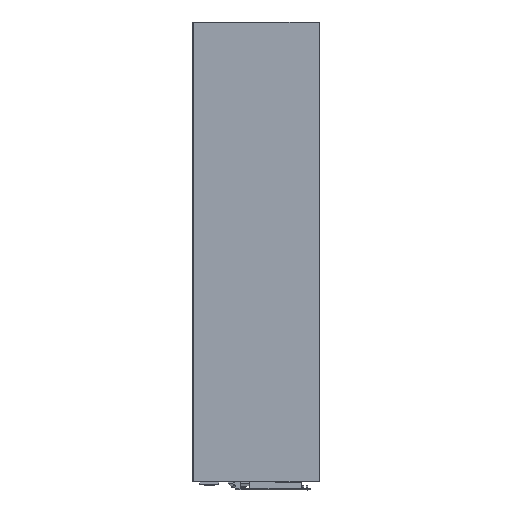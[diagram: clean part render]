
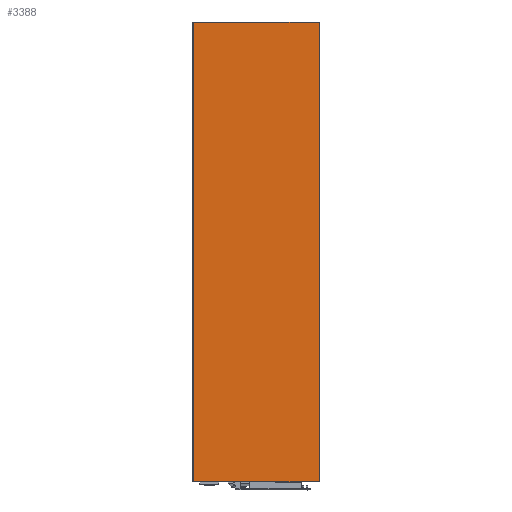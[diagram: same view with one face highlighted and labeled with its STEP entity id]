
A CAD part, left-side view. The second image highlights one B-rep face of the part: STEP entity #3388.
In plain terms, the highlighted planar face has unit normal (-1, 0, 0).
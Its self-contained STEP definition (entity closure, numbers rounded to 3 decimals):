
#41 = EDGE_CURVE ( 'NONE', #337, #1535, #1155, .T. ) ;
#109 = LINE ( 'NONE', #1802, #2213 ) ;
#337 = VERTEX_POINT ( 'NONE', #3107 ) ;
#378 = CARTESIAN_POINT ( 'NONE',  ( 2.5, -29., -440. ) ) ;
#547 = EDGE_CURVE ( 'NONE', #2462, #1535, #1804, .T. ) ;
#571 = VECTOR ( 'NONE', #2953, 1000. ) ;
#625 = VERTEX_POINT ( 'NONE', #2474 ) ;
#763 = DIRECTION ( 'NONE',  ( 0., -1., 0. ) ) ;
#831 = CARTESIAN_POINT ( 'NONE',  ( 2.5, 91.9, -440. ) ) ;
#933 = ORIENTED_EDGE ( 'NONE', *, *, #41, .T. ) ;
#1150 = VECTOR ( 'NONE', #763, 1000. ) ;
#1155 = LINE ( 'NONE', #831, #1150 ) ;
#1164 = VECTOR ( 'NONE', #2744, 1000. ) ;
#1351 = AXIS2_PLACEMENT_3D ( 'NONE', #2911, #2879, #2873 ) ;
#1535 = VERTEX_POINT ( 'NONE', #378 ) ;
#1793 = CARTESIAN_POINT ( 'NONE',  ( 2.5, -29., 0. ) ) ;
#1802 = CARTESIAN_POINT ( 'NONE',  ( 2.5, -29., 0. ) ) ;
#1804 = LINE ( 'NONE', #2760, #1164 ) ;
#1941 = ORIENTED_EDGE ( 'NONE', *, *, #3353, .T. ) ;
#2071 = FACE_OUTER_BOUND ( 'NONE', #2902, .T. ) ;
#2211 = DIRECTION ( 'NONE',  ( 0., 1., 0. ) ) ;
#2213 = VECTOR ( 'NONE', #2211, 1000. ) ;
#2462 = VERTEX_POINT ( 'NONE', #1793 ) ;
#2474 = CARTESIAN_POINT ( 'NONE',  ( 2.5, 91.5, 0. ) ) ;
#2546 = LINE ( 'NONE', #3006, #571 ) ;
#2744 = DIRECTION ( 'NONE',  ( 0., 0., -1. ) ) ;
#2760 = CARTESIAN_POINT ( 'NONE',  ( 2.5, -29., 0. ) ) ;
#2832 = ORIENTED_EDGE ( 'NONE', *, *, #3125, .T. ) ;
#2873 = DIRECTION ( 'NONE',  ( 0., -1., 0. ) ) ;
#2879 = DIRECTION ( 'NONE',  ( 1., 0., 0. ) ) ;
#2902 = EDGE_LOOP ( 'NONE', ( #3385, #2832, #1941, #933 ) ) ;
#2911 = CARTESIAN_POINT ( 'NONE',  ( 2.5, -29., 0. ) ) ;
#2953 = DIRECTION ( 'NONE',  ( 0., 0., -1. ) ) ;
#2984 = PLANE ( 'NONE',  #1351 ) ;
#3006 = CARTESIAN_POINT ( 'NONE',  ( 2.5, 91.5, 0. ) ) ;
#3107 = CARTESIAN_POINT ( 'NONE',  ( 2.5, 91.5, -440. ) ) ;
#3125 = EDGE_CURVE ( 'NONE', #2462, #625, #109, .T. ) ;
#3353 = EDGE_CURVE ( 'NONE', #625, #337, #2546, .T. ) ;
#3385 = ORIENTED_EDGE ( 'NONE', *, *, #547, .F. ) ;
#3388 = ADVANCED_FACE ( 'NONE', ( #2071 ), #2984, .F. ) ;
